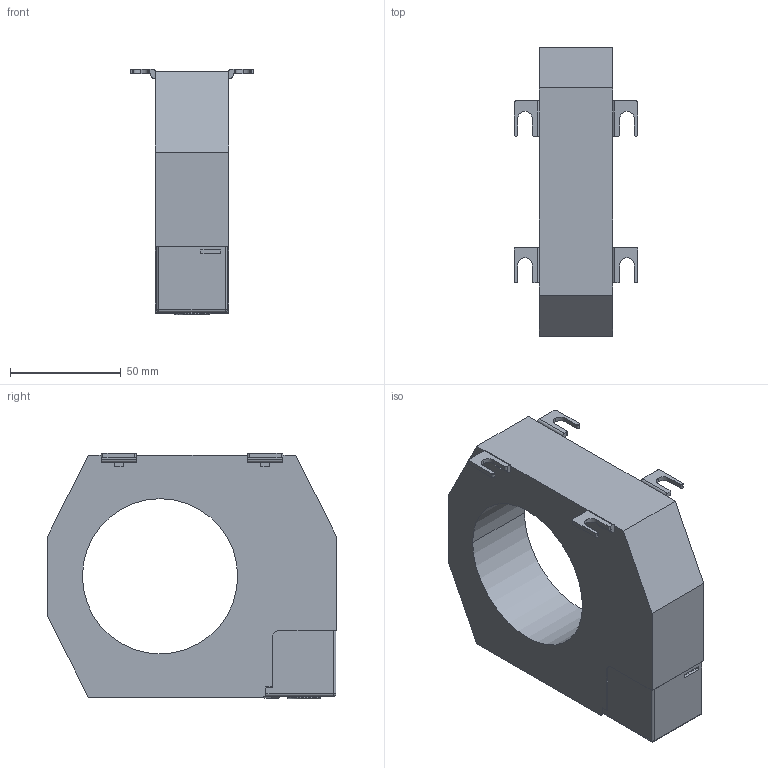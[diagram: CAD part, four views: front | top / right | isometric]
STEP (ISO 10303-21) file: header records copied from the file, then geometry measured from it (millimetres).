
FILE_DESCRIPTION (( 'STEP AP214' ), '1' );
FILE_NAME ('LW-SK10000-70.STEP', '2022-08-31T12:32:31', ( 'CAD-SW' ), ( '' ), 'SwSTEP 2.0', 'SolidWorks 2021', '' );
FILE_SCHEMA (( 'AUTOMOTIVE_DESIGN' ));
Length unit declared in the file: millimetre
Products named in the file (6): LW-SK10000_-70; 09_0404_00_02_02; 09_0404_00_02; LW-SK10000-70; LW-SK10000-70_R8; 09_0404_00_02_01
Assembly tree (5 placements, depth 3):
  LW-SK10000-70
    LW-SK10000-70_R8
    LW-SK10000_-70
    09_0404_00_02
      09_0404_00_02_01
      09_0404_00_02_02
Bounding box: 55.7 x 130 x 110.7 mm (x, y, z)
Volume: 285907.3 mm3; surface area: 50770.8 mm2
Topology: 4 solids, 4 shells, 405 faces, 1067 edges, 686 vertices
Faces by surface type: plane 229, cylinder 97, cone 38, bspline 29, torus 10, sphere 2
Entity records: 14691 total; most frequent: CARTESIAN_POINT 4040, ORIENTED_EDGE 2114, DIRECTION 1961, EDGE_CURVE 1057, VERTEX_POINT 686, VECTOR 675, LINE 675, AXIS2_PLACEMENT_3D 643
